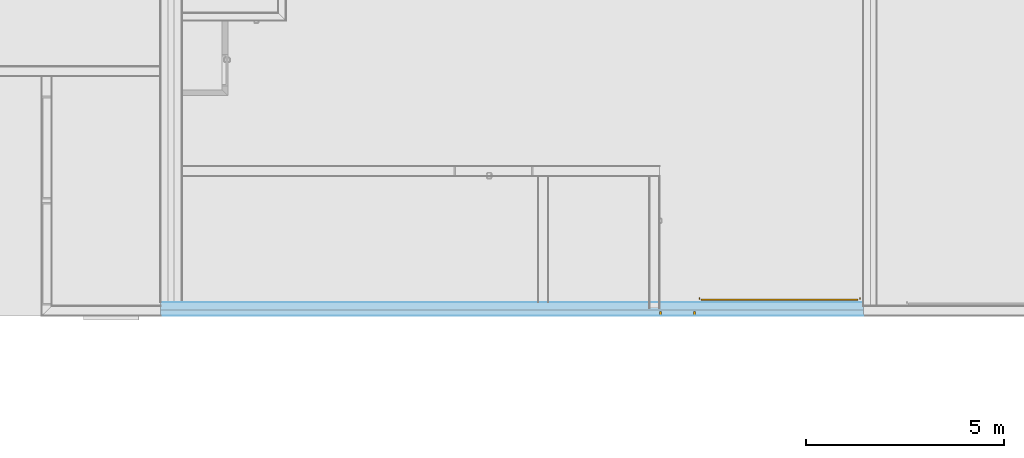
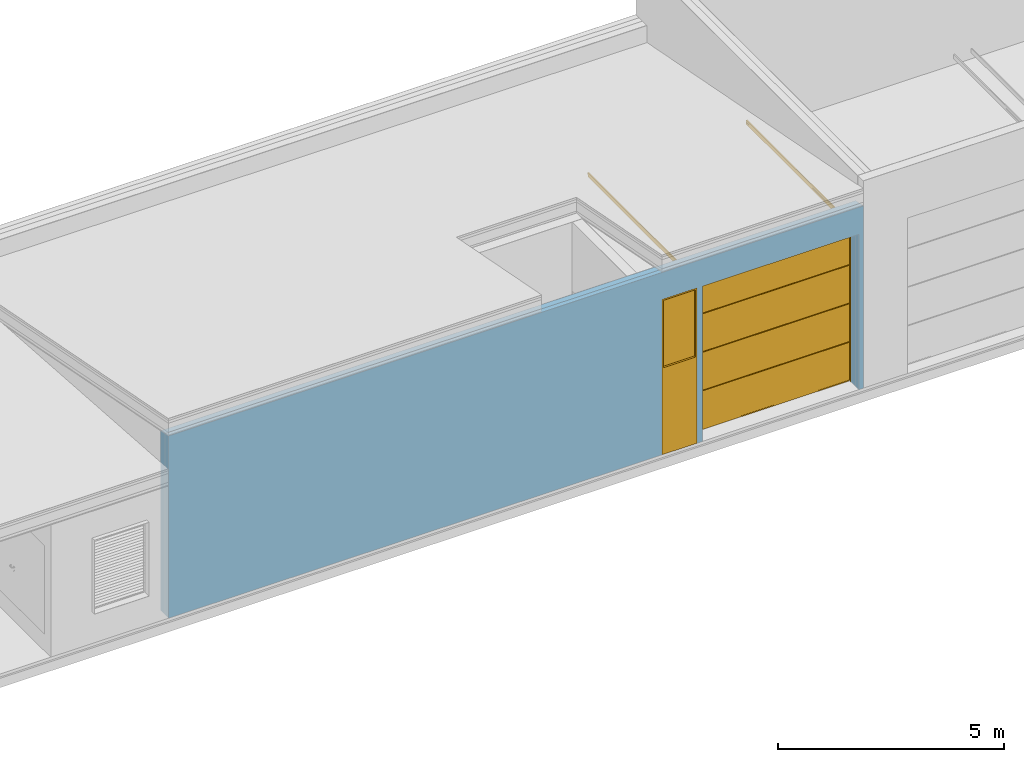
# One storey, part 37 of 62: 2 doors, 2 openings, 1 element without a shape of its own, plus 4 elements that do not belong to this part.
"""IFC2X3 building model written with IfcOpenShell, lengths in millimetres."""

import ifcopenshell
import ifcopenshell.guid

model = None  # the IFC model being written
_history = None  # IfcOwnerHistory: only IFC2X3 demands one
_inside = {}  # id of a spatial element -> (the spatial element, [elements in it])
_under = {}  # id of a project, library or spatial element -> (it, [spatial elements below it])
_declared = {}  # id of a project -> (the project, [libraries it declares])
_typed = {}  # id of a type object -> (the type object, [elements of that type])
_made_of = {}  # id of a material, layer set ... -> (it, [elements and type objects made of it])


def new_model(schema):
    """Start an empty IFC model of exactly this schema.

    Asked for "IFC4X3", IfcOpenShell would pick the latest addendum, in which some entities
    have other attributes; the version numbers below select the first issue.
    IFC2X3 requires an IfcOwnerHistory on every rooted entity: one is made here for all.
    """
    global model, _history
    if schema == "IFC4X3":
        model = ifcopenshell.file(schema_version=(4, 3, 0, 0))
    else:
        model = ifcopenshell.file(schema=schema)
    _inside.clear()
    _under.clear()
    _declared.clear()
    _typed.clear()
    _made_of.clear()
    _history = None
    if model.schema == "IFC2X3":
        org = make("IfcOrganization", Name="unknown")
        user = make(
            "IfcPersonAndOrganization",
            ThePerson=make("IfcPerson", FamilyName="unknown"),
            TheOrganization=org,
        )
        app = make(
            "IfcApplication",
            ApplicationDeveloper=org,
            Version="unknown",
            ApplicationFullName="unknown",
            ApplicationIdentifier="unknown",
        )
        _history = make(
            "IfcOwnerHistory",
            OwningUser=user,
            OwningApplication=app,
            ChangeAction="ADDED",
            CreationDate=0,
        )
    return model


def make(cls, **values):
    """One entity of the class cls with the attributes given. An attribute that is None is left unset."""
    return model.create_entity(
        cls, **{name: value for name, value in values.items() if value is not None}
    )


def entity(cls, *values):
    """Any entity or typed value of the class cls, its attributes in the order of the schema. None: left unset."""
    e = model.create_entity(cls)
    for i, value in enumerate(values):
        if value is not None:
            e[i] = value
    return e


def rooted(cls, **values):
    """An entity with a GlobalId (a new one), such as an element, a storey or a relation."""
    return make(cls, GlobalId=ifcopenshell.guid.new(), OwnerHistory=_history, **values)


def si_unit(unit_type, name, prefix=None):
    """IfcSIUnit, for example si_unit("LENGTHUNIT", "METRE", prefix="MILLI")."""
    return make("IfcSIUnit", UnitType=unit_type, Prefix=prefix, Name=name)


def converted_unit(unit_type, name, factor, base, dimensions=None, offset=None):
    """IfcConversionBasedUnit, such as the inch: factor (a typed value) times the base unit."""
    return make(
        "IfcConversionBasedUnit"
        if offset is None
        else "IfcConversionBasedUnitWithOffset",
        ConversionOffset=offset,
        Dimensions=None
        if dimensions is None
        else entity("IfcDimensionalExponents", *dimensions),
        UnitType=unit_type,
        Name=name,
        ConversionFactor=make(
            "IfcMeasureWithUnit", ValueComponent=factor, UnitComponent=base
        ),
    )


def derived_unit(unit_type, elements):
    """IfcDerivedUnit: a product of units, each with its exponent."""
    return make(
        "IfcDerivedUnit",
        Elements=[
            make("IfcDerivedUnitElement", Unit=unit, Exponent=power)
            for unit, power in elements
        ],
        UnitType=unit_type,
    )


def money_unit(currency):
    """IfcMonetaryUnit."""
    return make("IfcMonetaryUnit", Currency=currency)


def assignment(units):
    """IfcUnitAssignment: the units of a project."""
    return None if units is None else make("IfcUnitAssignment", Units=units)


def point(xyz):
    """IfcCartesianPoint."""
    return None if xyz is None else make("IfcCartesianPoint", Coordinates=xyz)


def direction(xyz):
    """IfcDirection."""
    return None if xyz is None else make("IfcDirection", DirectionRatios=xyz)


def frame(location, z_axis=None, x_axis=None):
    """IfcAxis2Placement3D, a coordinate frame: its origin and axes. An axis left out is left unset."""
    return make(
        "IfcAxis2Placement3D",
        Location=point(location),
        Axis=direction(z_axis),
        RefDirection=direction(x_axis),
    )


def frame_2d(location, x_axis=None):
    """IfcAxis2Placement2D, a coordinate frame in the plane: its origin and x axis."""
    return make(
        "IfcAxis2Placement2D", Location=point(location), RefDirection=direction(x_axis)
    )


def origin_with_axes():
    """The frame at (0, 0, 0) with the z axis (0, 0, 1) and the x axis (1, 0, 0) written out."""
    return frame((0.0, 0.0, 0.0), z_axis=(0.0, 0.0, 1.0), x_axis=(1.0, 0.0, 0.0))


def origin_2d_with_axis():
    """The frame at (0, 0) in the plane with the x axis (1, 0) written out."""
    return frame_2d((0.0, 0.0), x_axis=(1.0, 0.0))


def place(relative_to, where):
    """IfcLocalPlacement: puts the frame where relative to a parent placement (None: the world)."""
    return make(
        "IfcLocalPlacement", PlacementRelTo=relative_to, RelativePlacement=where
    )


def context(
    kind, dimensions, precision=None, world=None, true_north=None, identifier=None
):
    """IfcGeometricRepresentationContext, for example the 3D "Model" context."""
    return make(
        "IfcGeometricRepresentationContext",
        ContextIdentifier=identifier,
        ContextType=kind,
        CoordinateSpaceDimension=dimensions,
        Precision=precision,
        WorldCoordinateSystem=world,
        TrueNorth=true_north,
    )


def subcontext(parent, identifier, kind, view, scale=None):
    """IfcGeometricRepresentationSubContext, for example "Body" below "Model"."""
    return make(
        "IfcGeometricRepresentationSubContext",
        ContextIdentifier=identifier,
        ContextType=kind,
        ParentContext=parent,
        TargetScale=scale,
        TargetView=view,
    )


def project(units=None, contexts=None):
    """IfcProject with its units and contexts."""
    return rooted(
        "IfcProject",
        Name="project",
        RepresentationContexts=contexts,
        UnitsInContext=assignment(units),
    )


def spatial(cls, under=None, at=None, **own):
    """A site, building, storey or space (cls), placed at a placement, below another one or the project."""
    s = rooted(cls, ObjectPlacement=at, **own)
    if under is not None:
        _under.setdefault(under.id(), (under, []))[1].append(s)
    return s


def polyline(points):
    """IfcPolyline through the points."""
    return make("IfcPolyline", Points=[point(p) for p in points])


def profile(cls, at=None, kind="AREA", **sizes):
    """A parametric profile (cls). Its sizes go by their IFC names, for example OverallWidth=200.0."""
    return make(cls, ProfileType=kind, Position=at, **sizes)


def rectangle(**sizes):
    """IfcRectangleProfileDef."""
    return profile("IfcRectangleProfileDef", **sizes)


def outline(outer, holes=None, kind="AREA"):
    """IfcArbitraryClosedProfileDef: a profile drawn as a closed curve; with holes, ...WithVoids."""
    if holes is None:
        return make("IfcArbitraryClosedProfileDef", ProfileType=kind, OuterCurve=outer)
    return make(
        "IfcArbitraryProfileDefWithVoids",
        ProfileType=kind,
        OuterCurve=outer,
        InnerCurves=holes,
    )


def extrude(swept, where, along, depth):
    """IfcExtrudedAreaSolid: the profile swept, set in the frame where, extruded along a direction by depth."""
    return make(
        "IfcExtrudedAreaSolid",
        SweptArea=swept,
        Position=where,
        ExtrudedDirection=direction(along),
        Depth=depth,
    )


def clip(a, b, op="DIFFERENCE"):
    """IfcBooleanClippingResult: the solid a cut by the half space b."""
    return make(
        "IfcBooleanClippingResult", Operator=op, FirstOperand=a, SecondOperand=b
    )


def bounded_halfspace(plane, agree, where, boundary):
    """IfcPolygonalBoundedHalfSpace: a half space limited to a polygon's prism."""
    return make(
        "IfcPolygonalBoundedHalfSpace",
        BaseSurface=make("IfcPlane", Position=plane),
        AgreementFlag=agree,
        Position=where,
        PolygonalBoundary=boundary,
    )


def faces_of(points, faces, orient=None, outer=None):
    """IfcFace entities. A face is a list of loops; a loop is a list of indices into points, from 0.

    orient and outer hold one flag for each loop. By default every Orientation is true, the
    first loop of a face is its IfcFaceOuterBound and the others are IfcFaceBound.
    """
    made = []
    for i, loops in enumerate(faces):
        bounds = []
        for j, loop in enumerate(loops):
            is_outer = j == 0 if outer is None else outer[i][j]
            bounds.append(
                make(
                    "IfcFaceOuterBound" if is_outer else "IfcFaceBound",
                    Bound=make("IfcPolyLoop", Polygon=[points[k] for k in loop]),
                    Orientation=True if orient is None else orient[i][j],
                )
            )
        made.append(make("IfcFace", Bounds=bounds))
    return made


def open_shell(faces, orient=None, outer=None):
    """The faces of one IfcOpenShell. surface_model builds it on its shared points."""
    return ("IfcOpenShell", faces, orient, outer)


def faceted_brep(points, faces, orient=None, outer=None, voids=None):
    """IfcFacetedBrep: a solid bounded by flat faces; with voids (closed shells), ...WithVoids."""
    shared = [point(p) for p in points]
    hull = make("IfcClosedShell", CfsFaces=faces_of(shared, faces, orient, outer))
    if voids is None:
        return make("IfcFacetedBrep", Outer=hull)
    return make(
        "IfcFacetedBrepWithVoids",
        Outer=hull,
        Voids=[
            make(cls, CfsFaces=faces_of(shared, fs, o, b)) for cls, fs, o, b in voids
        ],
    )


def surface_model(cls, points, shells):
    """IfcFaceBasedSurfaceModel or IfcShellBasedSurfaceModel (cls): surfaces that need not close."""
    shared = [point(p) for p in points]
    made = [make(c, CfsFaces=faces_of(shared, fs, o, b)) for c, fs, o, b in shells]
    if cls == "IfcFaceBasedSurfaceModel":
        return make(cls, FbsmFaces=made)
    return make(cls, SbsmBoundary=made)


def shape(context_of_items, identifier, shape_type, items):
    """IfcShapeRepresentation: the items that make up one representation, for example the "Body"."""
    return make(
        "IfcShapeRepresentation",
        ContextOfItems=context_of_items,
        RepresentationIdentifier=identifier,
        RepresentationType=shape_type,
        Items=items,
    )


def material(Name=None, Category=None):
    """IfcMaterial."""
    return make("IfcMaterial", Name=Name, Category=Category)


def made_of(thing, what):
    """Note that an element or type object is made of a material, layer set ...; save() writes the relation."""
    if what is not None:
        _made_of.setdefault(what.id(), (what, []))[1].append(thing)
    return thing


def type_object(cls, material=None, **own):
    """A type object (cls), such as IfcWallType, which elements share."""
    return made_of(rooted(cls, **own), material)


def element(
    cls,
    number,
    at=None,
    inside=None,
    cuts=None,
    type_object=None,
    material=None,
    context=None,
    identifier="Body",
    shape_type=None,
    held_by="IfcProductDefinitionShape",
    body=None,
    shapes=None,
    **own,
):
    """One element of the class cls, such as IfcWall. Its Tag is "e" and its number.

    at: its placement. inside: the storey or other place that contains it. cuts: it is an
    opening in that element (IfcRelVoidsElement). A single representation is given by context,
    identifier, shape_type and body (its items); several are given by shapes. held_by: the class
    of the entity that holds the representations. save() writes the other relations.
    """
    e = rooted(cls, Tag="e%d" % number, ObjectPlacement=at, **own)
    if body is not None:
        shapes = [shape(context, identifier, shape_type, body)]
    if shapes is not None:
        e.Representation = make(held_by, Representations=shapes)
    if inside is not None:
        _inside.setdefault(inside.id(), (inside, []))[1].append(e)
    if cuts is not None:
        rooted(
            "IfcRelVoidsElement", RelatingBuildingElement=cuts, RelatedOpeningElement=e
        )
    if type_object is not None:
        _typed.setdefault(type_object.id(), (type_object, []))[1].append(e)
    return made_of(e, material)


def fill(opening, filler):
    """IfcRelFillsElement: the door or window that sits in an opening."""
    return rooted(
        "IfcRelFillsElement",
        RelatingOpeningElement=opening,
        RelatedBuildingElement=filler,
    )


def aggregate(whole, parts):
    """IfcRelAggregates: a whole, such as a stair, and the parts it consists of."""
    return rooted("IfcRelAggregates", RelatingObject=whole, RelatedObjects=parts)


def save(model, path):
    """Write the relations noted so far, then the file.

    IfcRelAggregates (storeys below a building ...), IfcRelContainedInSpatialStructure (elements
    in a storey), IfcRelDefinesByType, IfcRelAssociatesMaterial and IfcRelDeclares: one each for
    every whole, place, type object, material and project.
    """
    for whole, parts in _under.values():
        aggregate(whole, parts)
    for where, things in _inside.values():
        rooted(
            "IfcRelContainedInSpatialStructure",
            RelatedElements=things,
            RelatingStructure=where,
        )
    for kind, things in _typed.values():
        rooted("IfcRelDefinesByType", RelatedObjects=things, RelatingType=kind)
    for what, things in _made_of.values():
        rooted("IfcRelAssociatesMaterial", RelatedObjects=things, RelatingMaterial=what)
    for by, libraries in _declared.values():
        rooted("IfcRelDeclares", RelatingContext=by, RelatedDefinitions=libraries)
    model.write(path)


model = new_model("IFC2X3")

# Units and contexts
model_context = context("Model", 3, precision=0.01, world=origin_with_axes(), true_north=direction((0.0, 1.0)))
body_context = subcontext(model_context, "Body", "Model", "MODEL_VIEW")
ifc_project = project(units=[si_unit("LENGTHUNIT", "METRE", prefix="MILLI"), si_unit("AREAUNIT", "SQUARE_METRE"), si_unit("VOLUMEUNIT", "CUBIC_METRE"), converted_unit("PLANEANGLEUNIT", "DEGREE", entity("IfcPlaneAngleMeasure", 0.0174532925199), si_unit("PLANEANGLEUNIT", "RADIAN"), dimensions=[0, 0, 0, 0, 0, 0, 0]), si_unit("SOLIDANGLEUNIT", "STERADIAN"), money_unit("EUR"), converted_unit("TIMEUNIT", "Year", entity("IfcTimeMeasure", 31556926.0), si_unit("TIMEUNIT", "SECOND"), dimensions=[0, 0, 1, 0, 0, 0, 0]), si_unit("MASSUNIT", "GRAM", prefix="KILO"), si_unit("THERMODYNAMICTEMPERATUREUNIT", "DEGREE_CELSIUS"), si_unit("LUMINOUSINTENSITYUNIT", "LUMEN"), si_unit("ENERGYUNIT", "JOULE", prefix="MEGA"), derived_unit("THERMALCONDUCTANCEUNIT", [(si_unit("POWERUNIT", "WATT"), 1), (si_unit("LENGTHUNIT", "METRE"), -1), (si_unit("THERMODYNAMICTEMPERATUREUNIT", "KELVIN"), -1)]), derived_unit("SPECIFICHEATCAPACITYUNIT", [(si_unit("ENERGYUNIT", "JOULE"), 1), (si_unit("MASSUNIT", "GRAM", prefix="KILO"), -1), (si_unit("THERMODYNAMICTEMPERATUREUNIT", "KELVIN"), -1)]), derived_unit("MASSDENSITYUNIT", [(si_unit("MASSUNIT", "GRAM", prefix="KILO"), 1), (si_unit("VOLUMEUNIT", "CUBIC_METRE"), -1)])], contexts=[model_context])

# Site, building, storey
site_placement = place(None, origin_with_axes())
site = spatial("IfcSite", under=ifc_project, at=site_placement, Name="KIRDE 14, ELVA", CompositionType="ELEMENT")
building_placement = place(site_placement, origin_with_axes())
building = spatial("IfcBuilding", under=site, at=building_placement, Name="PPA ja Päästeameti ühishoone", CompositionType="ELEMENT")
storey_placement = place(building_placement, origin_with_axes())
storey = spatial("IfcBuildingStorey", under=building, at=storey_placement, Name="Esimene korrus", CompositionType="ELEMENT", Elevation=0.0)

# Door
door_style_1 = type_object("IfcDoorStyle", Name="Overhead Garage Door 24", ConstructionType="NOTDEFINED", OperationType="ROLLINGUP", ParameterTakesPrecedence=False, Sizeable=False)
wall_placement = place(storey_placement, frame((13908.9731322, 39534.5478473, 0.0), z_axis=(0.0, 0.0, 1.0), x_axis=(1.0, 0.0, 0.0)))
opening_1_placement = place(wall_placement, frame((15651.6486447, 0.0, 0.0), z_axis=(0.0, 0.0, 1.0), x_axis=(1.0, 0.0, 0.0)))
door_1_placement = place(opening_1_placement, frame((-2000.0, 0.0, 0.0), z_axis=(0.0, 0.0, 1.0), x_axis=(1.0, 0.0, 0.0)))
door_1 = element("IfcDoor", 1, at=door_1_placement, inside=storey, type_object=door_style_1, Name="GUA-03", ObjectType="DOOR", OverallHeight=4200.0, OverallWidth=4000.0, context=body_context, shape_type="Brep", body=[
    faceted_brep([(3990.0, 350.0, 4250.0), (10.0, 350.0, 4250.0), (10.0, 350.0, 4200.0), (3990.0, 350.0, 4200.0), (3990.0, 385.0, 4250.0), (10.0, 385.0, 4250.0), (10.0, 385.0, 4200.0), (3990.0, 385.0, 4200.0)], [[[0, 1, 2, 3]], [[4, 5, 1, 0]], [[1, 5, 6, 2]], [[3, 2, 6, 7]], [[0, 3, 7, 4]], [[7, 6, 5, 4]]]),
    faceted_brep([(-40.0, 450.0, 0.0), (-40.0, 450.0, 4250.0), (-38.4125, 450.0, 4250.0), (-38.4125, 450.0, 0.0), (-40.0, 350.0, 0.0), (-40.0, 350.0, 4250.0), (10.0, 350.0, 4250.0), (10.0, 385.0, 4250.0), (8.4125, 385.0, 4250.0), (8.4125, 351.5875, 4250.0), (-38.4125, 351.5875, 4250.0), (-38.4125, 351.5875, 0.0), (8.4125, 351.5875, 0.0), (8.4125, 385.0, 0.0), (10.0, 385.0, 0.0), (10.0, 350.0, 0.0)], [[[0, 1, 2, 3]], [[4, 5, 1, 0]], [[1, 5, 6, 7, 8, 9, 10, 2]], [[3, 2, 10, 11]], [[0, 3, 11, 12, 13, 14, 15, 4]], [[15, 6, 5, 4]], [[14, 7, 6, 15]], [[13, 8, 7, 14]], [[12, 9, 8, 13]], [[11, 10, 9, 12]]]),
    faceted_brep([(4038.4125, 470.0, 0.0), (4038.4125, 470.0, 3826.85768941), (4038.4125, 471.807210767, 3861.34132507), (4038.4125, 476.716802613, 3892.33926803), (4038.4125, 484.839666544, 3922.65420892), (4038.4125, 496.086806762, 3951.95401091), (4038.4125, 510.334997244, 3979.91765924), (4038.4125, 527.428131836, 4006.23877832), (4038.4125, 547.178934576, 4030.62898846), (4038.4125, 569.371011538, 4052.82106542), (4038.4125, 593.761221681, 4072.57186816), (4038.4125, 620.08234076, 4089.66500276), (4038.4125, 648.045989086, 4103.91319324), (4038.4125, 677.345791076, 4115.16033346), (4038.4125, 707.660731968, 4123.28319739), (4038.4125, 738.658674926, 4128.19278923), (4038.4125, 773.142310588, 4130.0), (4038.4125, 5010.0, 4130.0), (4038.4125, 5010.0, 4187.0), (4038.4125, 771.649713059, 4187.0), (4038.4125, 732.692375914, 4184.95833247), (4038.4125, 695.793501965, 4179.11412497), (4038.4125, 659.707649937, 4169.44495007), (4038.4125, 624.830183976, 4156.05674525), (4038.4125, 591.543228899, 4139.0961945), (4038.4125, 560.21148355, 4118.74912116), (4038.4125, 531.178225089, 4095.23845203), (4038.4125, 504.76154797, 4068.82177491), (4038.4125, 481.250878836, 4039.78851645), (4038.4125, 460.903805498, 4008.4567711), (4038.4125, 443.94325475, 3975.16981602), (4038.4125, 430.555049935, 3940.29235006), (4038.4125, 420.885875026, 3904.20649804), (4038.4125, 415.041667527, 3867.30762409), (4038.4125, 413.0, 3828.35028694), (4038.4125, 413.0, 0.0), (4011.4125, 470.0, 0.0), (4011.4125, 470.0, 3826.85768941), (4011.4125, 471.807210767, 3861.34132507), (4011.4125, 476.716802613, 3892.33926803), (4011.4125, 484.839666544, 3922.65420892), (4011.4125, 496.086806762, 3951.95401091), (4011.4125, 510.334997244, 3979.91765924), (4011.4125, 527.428131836, 4006.23877832), (4011.4125, 547.178934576, 4030.62898846), (4011.4125, 569.371011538, 4052.82106542), (4011.4125, 593.761221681, 4072.57186816), (4011.4125, 620.08234076, 4089.66500276), (4011.4125, 648.045989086, 4103.91319324), (4011.4125, 677.345791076, 4115.16033346), (4011.4125, 707.660731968, 4123.28319739), (4011.4125, 738.658674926, 4128.19278923), (4011.4125, 773.142310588, 4130.0), (4011.4125, 5010.0, 4130.0), (4011.4125, 5010.0, 4187.0), (4011.4125, 771.649713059, 4187.0), (4011.4125, 732.692375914, 4184.95833247), (4011.4125, 695.793501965, 4179.11412497), (4011.4125, 659.707649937, 4169.44495007), (4011.4125, 624.830183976, 4156.05674525), (4011.4125, 591.543228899, 4139.0961945), (4011.4125, 560.21148355, 4118.74912116), (4011.4125, 531.178225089, 4095.23845203), (4011.4125, 504.76154797, 4068.82177491), (4011.4125, 481.250878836, 4039.78851645), (4011.4125, 460.903805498, 4008.4567711), (4011.4125, 443.94325475, 3975.16981602), (4011.4125, 430.555049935, 3940.29235006), (4011.4125, 420.885875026, 3904.20649804), (4011.4125, 415.041667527, 3867.30762409), (4011.4125, 413.0, 3828.35028694), (4011.4125, 413.0, 0.0)], [[[0, 1, 2, 3, 4, 5, 6, 7, 8, 9, 10, 11, 12, 13, 14, 15, 16, 17, 18, 19, 20, 21, 22, 23, 24, 25, 26, 27, 28, 29, 30, 31, 32, 33, 34, 35]], [[36, 37, 1, 0]], [[37, 38, 2, 1]], [[38, 39, 3, 2]], [[39, 40, 4, 3]], [[40, 41, 5, 4]], [[41, 42, 6, 5]], [[42, 43, 7, 6]], [[43, 44, 8, 7]], [[44, 45, 9, 8]], [[45, 46, 10, 9]], [[46, 47, 11, 10]], [[47, 48, 12, 11]], [[48, 49, 13, 12]], [[49, 50, 14, 13]], [[50, 51, 15, 14]], [[51, 52, 16, 15]], [[52, 53, 17, 16]], [[17, 53, 54, 18]], [[19, 18, 54, 55]], [[20, 19, 55, 56]], [[21, 20, 56, 57]], [[22, 21, 57, 58]], [[23, 22, 58, 59]], [[24, 23, 59, 60]], [[25, 24, 60, 61]], [[26, 25, 61, 62]], [[27, 26, 62, 63]], [[28, 27, 63, 64]], [[29, 28, 64, 65]], [[30, 29, 65, 66]], [[31, 30, 66, 67]], [[32, 31, 67, 68]], [[33, 32, 68, 69]], [[34, 33, 69, 70]], [[35, 34, 70, 71]], [[0, 35, 71, 36]], [[71, 70, 69, 68, 67, 66, 65, 64, 63, 62, 61, 60, 59, 58, 57, 56, 55, 54, 53, 52, 51, 50, 49, 48, 47, 46, 45, 44, 43, 42, 41, 40, 39, 38, 37, 36]]]),
    faceted_brep([(-40.0, 5010.0, 4244.0), (-40.0, 413.0, 4244.0), (-13.0, 413.0, 4244.0), (-13.0, 5010.0, 4244.0), (-40.0, 5010.0, 4187.0), (-40.0, 413.0, 4187.0), (-13.0, 413.0, 4187.0), (-13.0, 5010.0, 4187.0)], [[[0, 1, 2, 3]], [[4, 5, 1, 0]], [[1, 5, 6, 2]], [[3, 2, 6, 7]], [[0, 3, 7, 4]], [[7, 6, 5, 4]]]),
    faceted_brep([(4040.0, 450.0, 0.0), (4038.4125, 450.0, 0.0), (4038.4125, 450.0, 4250.0), (4040.0, 450.0, 4250.0), (4040.0, 350.0, 0.0), (3990.0, 350.0, 0.0), (3990.0, 385.0, 0.0), (3991.5875, 385.0, 0.0), (3991.5875, 351.5875, 0.0), (4038.4125, 351.5875, 0.0), (4038.4125, 351.5875, 4250.0), (3991.5875, 351.5875, 4250.0), (3991.5875, 385.0, 4250.0), (3990.0, 385.0, 4250.0), (3990.0, 350.0, 4250.0), (4040.0, 350.0, 4250.0)], [[[0, 1, 2, 3]], [[0, 4, 5, 6, 7, 8, 9, 1]], [[1, 9, 10, 2]], [[3, 2, 10, 11, 12, 13, 14, 15]], [[4, 0, 3, 15]], [[5, 4, 15, 14]], [[6, 5, 14, 13]], [[7, 6, 13, 12]], [[8, 7, 12, 11]], [[9, 8, 11, 10]]]),
    faceted_brep([(-38.4125, 470.0, 0.0), (-38.4125, 413.0, 0.0), (-38.4125, 413.0, 3828.35028694), (-38.4125, 415.041667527, 3867.30762409), (-38.4125, 420.885875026, 3904.20649804), (-38.4125, 430.555049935, 3940.29235006), (-38.4125, 443.94325475, 3975.16981602), (-38.4125, 460.903805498, 4008.4567711), (-38.4125, 481.250878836, 4039.78851645), (-38.4125, 504.76154797, 4068.82177491), (-38.4125, 531.178225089, 4095.23845203), (-38.4125, 560.21148355, 4118.74912116), (-38.4125, 591.543228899, 4139.0961945), (-38.4125, 624.830183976, 4156.05674525), (-38.4125, 659.707649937, 4169.44495007), (-38.4125, 695.793501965, 4179.11412497), (-38.4125, 732.692375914, 4184.95833247), (-38.4125, 771.649713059, 4187.0), (-38.4125, 5010.0, 4187.0), (-38.4125, 5010.0, 4130.0), (-38.4125, 773.142310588, 4130.0), (-38.4125, 738.658674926, 4128.19278923), (-38.4125, 707.660731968, 4123.28319739), (-38.4125, 677.345791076, 4115.16033346), (-38.4125, 648.045989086, 4103.91319324), (-38.4125, 620.08234076, 4089.66500276), (-38.4125, 593.761221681, 4072.57186816), (-38.4125, 569.371011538, 4052.82106542), (-38.4125, 547.178934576, 4030.62898846), (-38.4125, 527.428131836, 4006.23877832), (-38.4125, 510.334997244, 3979.91765924), (-38.4125, 496.086806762, 3951.95401091), (-38.4125, 484.839666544, 3922.65420892), (-38.4125, 476.716802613, 3892.33926803), (-38.4125, 471.807210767, 3861.34132507), (-38.4125, 470.0, 3826.85768941), (-11.4125, 470.0, 0.0), (-11.4125, 413.0, 0.0), (-11.4125, 413.0, 3828.35028694), (-11.4125, 415.041667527, 3867.30762409), (-11.4125, 420.885875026, 3904.20649804), (-11.4125, 430.555049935, 3940.29235006), (-11.4125, 443.94325475, 3975.16981602), (-11.4125, 460.903805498, 4008.4567711), (-11.4125, 481.250878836, 4039.78851645), (-11.4125, 504.76154797, 4068.82177491), (-11.4125, 531.178225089, 4095.23845203), (-11.4125, 560.21148355, 4118.74912116), (-11.4125, 591.543228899, 4139.0961945), (-11.4125, 624.830183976, 4156.05674525), (-11.4125, 659.707649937, 4169.44495007), (-11.4125, 695.793501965, 4179.11412497), (-11.4125, 732.692375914, 4184.95833247), (-11.4125, 771.649713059, 4187.0), (-11.4125, 5010.0, 4187.0), (-11.4125, 5010.0, 4130.0), (-11.4125, 773.142310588, 4130.0), (-11.4125, 738.658674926, 4128.19278923), (-11.4125, 707.660731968, 4123.28319739), (-11.4125, 677.345791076, 4115.16033346), (-11.4125, 648.045989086, 4103.91319324), (-11.4125, 620.08234076, 4089.66500276), (-11.4125, 593.761221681, 4072.57186816), (-11.4125, 569.371011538, 4052.82106542), (-11.4125, 547.178934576, 4030.62898846), (-11.4125, 527.428131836, 4006.23877832), (-11.4125, 510.334997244, 3979.91765924), (-11.4125, 496.086806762, 3951.95401091), (-11.4125, 484.839666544, 3922.65420892), (-11.4125, 476.716802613, 3892.33926803), (-11.4125, 471.807210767, 3861.34132507), (-11.4125, 470.0, 3826.85768941)], [[[0, 1, 2, 3, 4, 5, 6, 7, 8, 9, 10, 11, 12, 13, 14, 15, 16, 17, 18, 19, 20, 21, 22, 23, 24, 25, 26, 27, 28, 29, 30, 31, 32, 33, 34, 35]], [[0, 36, 37, 1]], [[1, 37, 38, 2]], [[2, 38, 39, 3]], [[3, 39, 40, 4]], [[4, 40, 41, 5]], [[5, 41, 42, 6]], [[6, 42, 43, 7]], [[7, 43, 44, 8]], [[8, 44, 45, 9]], [[9, 45, 46, 10]], [[10, 46, 47, 11]], [[11, 47, 48, 12]], [[12, 48, 49, 13]], [[13, 49, 50, 14]], [[14, 50, 51, 15]], [[15, 51, 52, 16]], [[16, 52, 53, 17]], [[17, 53, 54, 18]], [[19, 18, 54, 55]], [[56, 20, 19, 55]], [[57, 21, 20, 56]], [[58, 22, 21, 57]], [[59, 23, 22, 58]], [[60, 24, 23, 59]], [[61, 25, 24, 60]], [[62, 26, 25, 61]], [[63, 27, 26, 62]], [[64, 28, 27, 63]], [[65, 29, 28, 64]], [[66, 30, 29, 65]], [[67, 31, 30, 66]], [[68, 32, 31, 67]], [[69, 33, 32, 68]], [[70, 34, 33, 69]], [[71, 35, 34, 70]], [[36, 0, 35, 71]], [[37, 36, 71, 70, 69, 68, 67, 66, 65, 64, 63, 62, 61, 60, 59, 58, 57, 56, 55, 54, 53, 52, 51, 50, 49, 48, 47, 46, 45, 44, 43, 42, 41, 40, 39, 38]]]),
    faceted_brep([(4040.0, 5010.0, 4244.0), (4013.0, 5010.0, 4244.0), (4013.0, 413.0, 4244.0), (4040.0, 413.0, 4244.0), (4040.0, 5010.0, 4187.0), (4013.0, 5010.0, 4187.0), (4013.0, 413.0, 4187.0), (4040.0, 413.0, 4187.0)], [[[0, 1, 2, 3]], [[0, 4, 5, 1]], [[1, 5, 6, 2]], [[3, 2, 6, 7]], [[4, 0, 3, 7]], [[5, 4, 7, 6]]]),
    faceted_brep([(15.0, 425.0, 0.0), (3985.0, 425.0, 0.0), (3985.0, 395.0, 0.0), (15.0, 395.0, 0.0), (15.0, 425.0, 22.5), (3985.0, 425.0, 22.5), (3985.0, 395.0, 22.5), (15.0, 395.0, 22.5)], [[[0, 1, 2, 3]], [[0, 4, 5, 1]], [[1, 5, 6, 2]], [[3, 2, 6, 7]], [[4, 0, 3, 7]], [[5, 4, 7, 6]]]),
    faceted_brep([(15.0, 425.0, 22.5), (15.0, 425.0, 1063.625), (3985.0, 425.0, 1063.625), (3985.0, 425.0, 22.5), (15.0, 395.0, 22.5), (15.0, 385.0, 32.5), (15.0, 385.0, 1053.625), (15.0, 395.0, 1063.625), (3985.0, 395.0, 1063.625), (3985.0, 385.0, 1053.625), (3985.0, 385.0, 32.5), (3985.0, 395.0, 22.5)], [[[0, 1, 2, 3]], [[0, 4, 5, 6, 7, 1]], [[1, 7, 8, 2]], [[3, 2, 8, 9, 10, 11]], [[4, 0, 3, 11]], [[5, 4, 11, 10]], [[6, 5, 10, 9]], [[7, 6, 9, 8]]]),
    faceted_brep([(15.0, 425.0, 1063.625), (15.0, 425.0, 2104.75), (3985.0, 425.0, 2104.75), (3985.0, 425.0, 1063.625), (15.0, 395.0, 1063.625), (15.0, 385.0, 1073.625), (15.0, 385.0, 2094.75), (15.0, 395.0, 2104.75), (3985.0, 395.0, 2104.75), (3985.0, 385.0, 2094.75), (3985.0, 385.0, 1073.625), (3985.0, 395.0, 1063.625)], [[[0, 1, 2, 3]], [[0, 4, 5, 6, 7, 1]], [[1, 7, 8, 2]], [[3, 2, 8, 9, 10, 11]], [[4, 0, 3, 11]], [[5, 4, 11, 10]], [[6, 5, 10, 9]], [[7, 6, 9, 8]]]),
    faceted_brep([(15.0, 425.0, 2104.75), (15.0, 425.0, 3145.875), (3985.0, 425.0, 3145.875), (3985.0, 425.0, 2104.75), (15.0, 395.0, 2104.75), (15.0, 385.0, 2114.75), (15.0, 385.0, 3135.875), (15.0, 395.0, 3145.875), (3985.0, 395.0, 3145.875), (3985.0, 385.0, 3135.875), (3985.0, 385.0, 2114.75), (3985.0, 395.0, 2104.75)], [[[0, 1, 2, 3]], [[0, 4, 5, 6, 7, 1]], [[1, 7, 8, 2]], [[3, 2, 8, 9, 10, 11]], [[4, 0, 3, 11]], [[5, 4, 11, 10]], [[6, 5, 10, 9]], [[7, 6, 9, 8]]]),
    faceted_brep([(15.0, 425.0, 3145.875), (15.0, 425.0, 4187.0), (3985.0, 425.0, 4187.0), (3985.0, 425.0, 3145.875), (15.0, 395.0, 3145.875), (15.0, 385.0, 3155.875), (15.0, 385.0, 4177.0), (15.0, 395.0, 4187.0), (3985.0, 395.0, 4187.0), (3985.0, 385.0, 4177.0), (3985.0, 385.0, 3155.875), (3985.0, 395.0, 3145.875)], [[[0, 1, 2, 3]], [[0, 4, 5, 6, 7, 1]], [[1, 7, 8, 2]], [[3, 2, 8, 9, 10, 11]], [[4, 0, 3, 11]], [[5, 4, 11, 10]], [[6, 5, 10, 9]], [[7, 6, 9, 8]]]),
])

door_style_2 = type_object("IfcDoorStyle", Name="Door with Transom 24", ConstructionType="NOTDEFINED", OperationType="SINGLE_SWING_RIGHT", ParameterTakesPrecedence=False, Sizeable=False)
opening_2_placement = place(wall_placement, frame((13067.6818848, 0.0, 0.0), z_axis=(0.0, 0.0, 1.0), x_axis=(1.0, 0.0, 0.0)))
door_2_placement = place(opening_2_placement, frame((450.0, 0.0, 0.0), z_axis=(0.0, 0.0, 1.0), x_axis=(-1.0, 0.0, 0.0)))
door_2 = element("IfcDoor", 2, at=door_2_placement, inside=storey, type_object=door_style_2, Name="VU-03", ObjectType="DOOR", OverallHeight=4200.0, OverallWidth=900.0, context=body_context, shape_type="SurfaceModel", body=[
    faceted_brep([(40.0, -40.0, 2312.0), (40.0, 0.0, 2312.0), (40.0, 0.0, 2340.0), (40.0, -115.0, 2340.0), (40.0, -115.0, 2300.0), (40.0, -115.0, 0.0), (40.0, -40.0, 0.0), (28.0, -40.0, 2312.0), (28.0, 0.0, 2312.0), (28.0, 0.0, 0.0), (0.0, 0.0, 0.0), (0.0, 0.0, 4160.0), (40.0, 0.0, 4160.0), (40.0, -115.0, 4160.0), (0.0, -115.0, 4160.0), (0.0, -115.0, 0.0), (28.0, -40.0, 0.0)], [[[0, 1, 2, 3, 4, 5, 6]], [[1, 0, 7, 8]], [[8, 9, 10, 11, 12, 2, 1]], [[12, 13, 3, 2]], [[3, 13, 14, 15, 5, 4]], [[16, 6, 5, 15, 10, 9]], [[0, 6, 16, 7]], [[9, 8, 7, 16]], [[10, 15, 14, 11]], [[11, 14, 13, 12]]]),
    faceted_brep([(872.0, 0.0, 2312.0), (860.0, 0.0, 2312.0), (860.0, 0.0, 2340.0), (860.0, 0.0, 4160.0), (900.0, 0.0, 4160.0), (900.0, 0.0, 0.0), (872.0, 0.0, 0.0), (872.0, -40.0, 2312.0), (860.0, -40.0, 2312.0), (860.0, -40.0, 0.0), (860.0, -115.0, 0.0), (860.0, -115.0, 2300.0), (860.0, -115.0, 2340.0), (860.0, -115.0, 4160.0), (900.0, -115.0, 4160.0), (900.0, -115.0, 0.0), (872.0, -40.0, 0.0)], [[[0, 1, 2, 3, 4, 5, 6]], [[1, 0, 7, 8]], [[8, 9, 10, 11, 12, 2, 1]], [[2, 12, 13, 3]], [[3, 13, 14, 4]], [[4, 14, 15, 5]], [[16, 6, 5, 15, 10, 9]], [[0, 6, 16, 7]], [[16, 9, 8, 7]], [[12, 11, 10, 15, 14, 13]]]),
    faceted_brep([(0.0, 0.0, 4200.0), (0.0, 0.0, 4160.0), (0.0, -115.0, 4160.0), (0.0, -115.0, 4200.0), (900.0, 0.0, 4200.0), (900.0, 0.0, 4160.0), (860.0, 0.0, 4160.0), (40.0, 0.0, 4160.0), (40.0, -115.0, 4160.0), (860.0, -115.0, 4160.0), (900.0, -115.0, 4160.0), (900.0, -115.0, 4200.0)], [[[0, 1, 2, 3]], [[0, 4, 5, 6, 7, 1]], [[1, 7, 8, 2]], [[3, 2, 8, 9, 10, 11]], [[4, 0, 3, 11]], [[5, 4, 11, 10]], [[6, 5, 10, 9]], [[7, 6, 9, 8]]]),
    faceted_brep([(860.0, -40.0, 2312.0), (860.0, 0.0, 2312.0), (860.0, 0.0, 2340.0), (860.0, -115.0, 2340.0), (860.0, -115.0, 2300.0), (860.0, -40.0, 2300.0), (40.0, -40.0, 2312.0), (40.0, 0.0, 2312.0), (40.0, 0.0, 2340.0), (40.0, -115.0, 2340.0), (40.0, -115.0, 2300.0), (40.0, -40.0, 2300.0)], [[[0, 1, 2, 3, 4, 5]], [[1, 0, 6, 7]], [[1, 7, 8, 2]], [[8, 9, 3, 2]], [[10, 4, 3, 9]], [[11, 5, 4, 10]], [[0, 5, 11, 6]], [[6, 11, 10, 9, 8, 7]]]),
    faceted_brep([(872.0, 0.0, 0.0), (872.0, -40.0, 0.0), (28.0, -40.0, 0.0), (28.0, 0.0, 0.0), (872.0, 0.0, 2312.0), (872.0, -40.0, 2312.0), (28.0, -40.0, 2312.0), (28.0, 0.0, 2312.0)], [[[0, 1, 2, 3]], [[4, 5, 1, 0]], [[1, 5, 6, 2]], [[3, 2, 6, 7]], [[0, 3, 7, 4]], [[7, 6, 5, 4]]]),
    surface_model("IfcShellBasedSurfaceModel", [(40.0, -51.5, 2340.0), (40.0, -51.5, 4160.0), (860.0, -51.5, 4160.0), (860.0, -51.5, 2340.0)], [open_shell([[[0, 1, 2, 3]]])]),
    surface_model("IfcShellBasedSurfaceModel", [(40.0, -63.5, 2340.0), (860.0, -63.5, 2340.0), (860.0, -63.5, 4160.0), (40.0, -63.5, 4160.0)], [open_shell([[[0, 1, 2, 3]]])]),
])

# Wall, opening
wall_type = type_object("IfcWallType", Name="A-VS01b 350", PredefinedType="NOTDEFINED")
wall = element("IfcWall", 3, at=wall_placement, inside=storey, type_object=wall_type, Name="VS-04")
opening_1 = element("IfcOpeningElement", 4, at=opening_1_placement, cuts=wall, Name="GUA-03", context=body_context, shape_type="SweptSolid", body=[
    extrude(rectangle(XDim=4000.0, YDim=4200.0, at=origin_2d_with_axis()), frame((0.0, 350.0, 2100.0), z_axis=(0.0, -1.0, 0.0), x_axis=(1.0, 0.0, 0.0)), (0.0, 0.0, 1.0), 1050.0),
])

fill(opening_1, door_1)

# Opening
opening_2 = element("IfcOpeningElement", 5, at=opening_2_placement, cuts=wall, Name="VU-03", context=body_context, shape_type="SweptSolid", body=[
    extrude(rectangle(XDim=900.0, YDim=4200.0, at=origin_2d_with_axis()), frame((0.0, 350.0, 2100.0), z_axis=(0.0, -1.0, 0.0), x_axis=(-1.0, 0.0, 0.0)), (0.0, 0.0, 1.0), 1050.0),
])

fill(opening_2, door_2)

# Building element part
ifc_material_1 = material(Name="Krohv")
building_element_part_1_placement = place(wall_placement, origin_with_axes())
building_element_part_1 = element("IfcBuildingElementPart", 6, at=building_element_part_1_placement, material=ifc_material_1, Name="Krohv", context=body_context, shape_type="Clipping", body=[
    clip(extrude(outline(polyline([(0.0, 0.0), (17768.648645, 0.0), (17768.648645, 5.0), (0.0, 5.0), (0.0, 0.0)])), origin_with_axes(), (0.0, 0.0, 1.0), 4926.12680401), bounded_halfspace(frame((-3.23675819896e-07, 921.145515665, 4747.39530899), z_axis=(0.0, -0.190479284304, -0.981691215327), x_axis=(0.0, 0.981691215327, -0.190479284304)), True, origin_with_axes(), polyline([(-10.0, -10.0), (17768.648645, -10.0), (17768.648645, 360.0), (-10.0, 360.0), (-10.0, -10.0)]))),
])

ifc_material_2 = material(Name="Mineraalvill")
building_element_part_2_placement = place(wall_placement, origin_with_axes())
building_element_part_2 = element("IfcBuildingElementPart", 7, at=building_element_part_2_placement, material=ifc_material_2, Name="Mineraalvill", context=body_context, shape_type="Clipping", body=[
    clip(extrude(outline(polyline([(0.0, 5.0), (17768.648645, 5.0), (17768.648645, 155.0), (0.0, 155.0), (0.0, 5.0)])), origin_with_axes(), (0.0, 0.0, 1.0), 4926.12680401), bounded_halfspace(frame((-3.23675819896e-07, 921.145515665, 4747.39530899), z_axis=(0.0, -0.190479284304, -0.981691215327), x_axis=(0.0, 0.981691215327, -0.190479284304)), True, origin_with_axes(), polyline([(-10.0, -10.0), (17768.648645, -10.0), (17768.648645, 360.0), (-10.0, 360.0), (-10.0, -10.0)]))),
])

ifc_material_3 = material(Name="COLUMBIA KIVI")
building_element_part_3_placement = place(wall_placement, origin_with_axes())
building_element_part_3 = element("IfcBuildingElementPart", 8, at=building_element_part_3_placement, material=ifc_material_3, Name="COLUMBIA KIVI", context=body_context, shape_type="Clipping", body=[
    clip(extrude(outline(polyline([(0.0, 155.0), (17768.648645, 155.0), (17768.648645, 345.0), (0.0, 345.0), (0.0, 155.0)])), origin_with_axes(), (0.0, 0.0, 1.0), 4926.12680401), bounded_halfspace(frame((-3.23675819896e-07, 921.145515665, 4747.39530899), z_axis=(0.0, -0.190479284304, -0.981691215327), x_axis=(0.0, 0.981691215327, -0.190479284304)), True, origin_with_axes(), polyline([(-10.0, -10.0), (17768.648645, -10.0), (17768.648645, 360.0), (-10.0, 360.0), (-10.0, -10.0)]))),
])

building_element_part_4_placement = place(wall_placement, origin_with_axes())
building_element_part_4 = element("IfcBuildingElementPart", 9, at=building_element_part_4_placement, material=ifc_material_1, Name="Krohv", context=body_context, shape_type="Clipping", body=[
    clip(extrude(outline(polyline([(0.0, 345.0), (17768.648645, 345.0), (17768.648645, 350.0), (0.0, 350.0), (0.0, 345.0)])), origin_with_axes(), (0.0, 0.0, 1.0), 4926.12680401), bounded_halfspace(frame((-3.23675819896e-07, 921.145515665, 4747.39530899), z_axis=(0.0, -0.190479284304, -0.981691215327), x_axis=(0.0, 0.981691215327, -0.190479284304)), True, origin_with_axes(), polyline([(-10.0, -10.0), (17768.648645, -10.0), (17768.648645, 360.0), (-10.0, 360.0), (-10.0, -10.0)]))),
])

aggregate(wall, [building_element_part_1, building_element_part_2, building_element_part_3, building_element_part_4])

save(model, "model.ifc")
